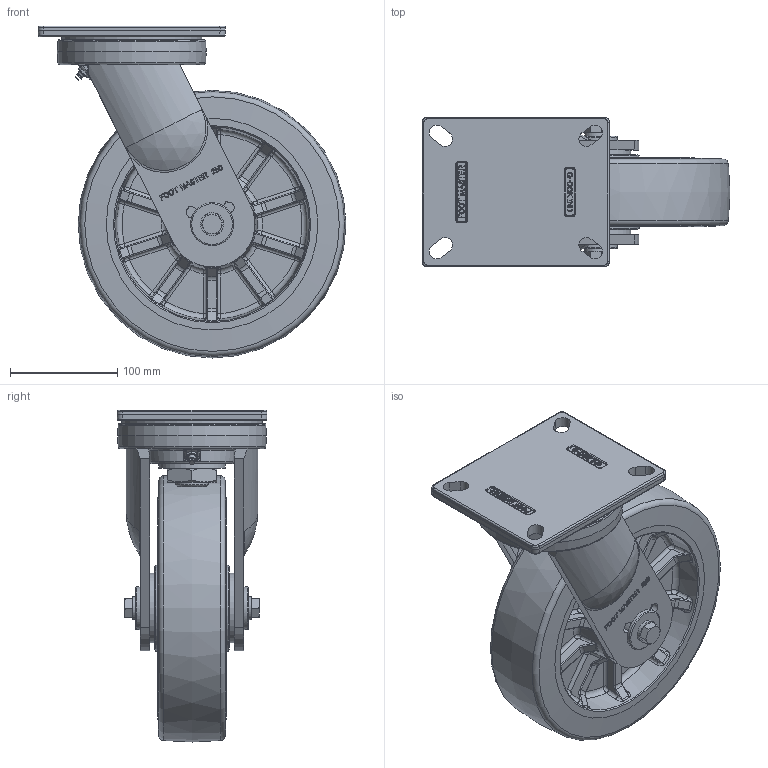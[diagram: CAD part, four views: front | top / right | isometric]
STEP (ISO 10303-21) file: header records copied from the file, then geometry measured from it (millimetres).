
FILE_DESCRIPTION(/* description */ (''),/* implementation_level */ '2;1');
FILE_NAME(/* name */ 'Y:\1.기술연구소\2.연구개발 진행중\133.고하중캐스터 브레이크 타입 변경건_2025.11.03\1.도면\4.홈페이지용 도면\01. 3D\GXT-250 SERIES\GXT-200-STEP\GXT-250-ASF-HUD.stp',/* time_stamp */ '2026-07-21T20:04:13+09:00',/* author */ ('장용하'),/* organization */ (''),/* preprocessor_version */ 'ST-DEVELOPER v18.1',/* originating_system */ 'Autodesk Inventor 2021',/* authorisation */ '');
FILE_SCHEMA (('CONFIG_CONTROL_DESIGN'));
Products named in the file (1): GXT-250-ASF-HUD
Bounding box: 287.5 x 140 x 310 mm (x, y, z)
Volume: 3248930.6 mm3; surface area: 334571.5 mm2
Topology: 1 solids, 1 shells, 1728 faces, 4444 edges, 2792 vertices
Faces by surface type: bspline 663, plane 593, cylinder 294, torus 138, cone 36, sphere 4
Full cylindrical faces by diameter (mm): 12 x2, 21.5 x2, 30 x1, 40 x2, 62.5 x1, 65 x2, 131.086 x1
Entity records: 62604 total; most frequent: CARTESIAN_POINT 24601, ORIENTED_EDGE 8886, DIRECTION 6250, EDGE_CURVE 4443, VERTEX_POINT 2792, AXIS2_PLACEMENT_3D 2151, LINE 1948, VECTOR 1948
